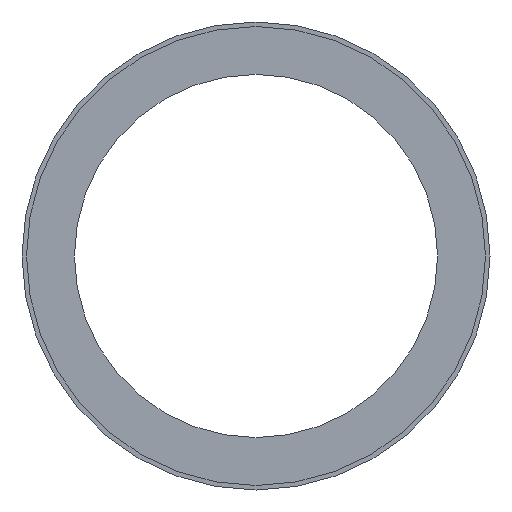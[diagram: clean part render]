
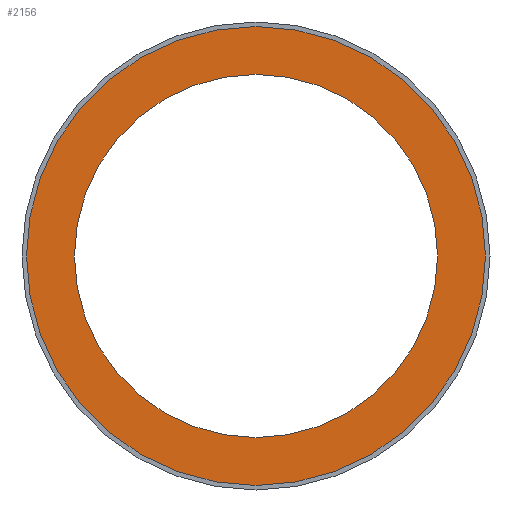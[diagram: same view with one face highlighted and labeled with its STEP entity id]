
A CAD part, front view. The second image highlights one B-rep face of the part: STEP entity #2156.
In plain terms, the highlighted planar face has unit normal (0, -1, 0).
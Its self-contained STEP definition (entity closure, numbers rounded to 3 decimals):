
#93 = DIRECTION ( 'NONE',  ( 0., 0., -1. ) ) ;
#118 = DIRECTION ( 'NONE',  ( 0., 1., 0. ) ) ;
#178 = EDGE_CURVE ( 'NONE', #4407, #6073, #308, .T. ) ;
#308 = CIRCLE ( 'NONE', #3269, 180. ) ;
#404 = CARTESIAN_POINT ( 'NONE',  ( 0., -58., -227.5 ) ) ;
#670 = VERTEX_POINT ( 'NONE', #404 ) ;
#743 = CARTESIAN_POINT ( 'NONE',  ( 0., -58., 0. ) ) ;
#788 = AXIS2_PLACEMENT_3D ( 'NONE', #3511, #1683, #5276 ) ;
#836 = EDGE_CURVE ( 'NONE', #670, #6692, #1711, .T. ) ;
#1210 = EDGE_CURVE ( 'NONE', #6073, #4407, #3225, .T. ) ;
#1261 = CARTESIAN_POINT ( 'NONE',  ( 0., -58., 180. ) ) ;
#1683 = DIRECTION ( 'NONE',  ( 0., -1., 0. ) ) ;
#1711 = CIRCLE ( 'NONE', #788, 227.5 ) ;
#1747 = CARTESIAN_POINT ( 'NONE',  ( 0., -58., 0. ) ) ;
#2156 = ADVANCED_FACE ( 'NONE', ( #6056, #7852 ), #6216, .F. ) ;
#2336 = AXIS2_PLACEMENT_3D ( 'NONE', #1747, #6594, #3641 ) ;
#2713 = ORIENTED_EDGE ( 'NONE', *, *, #178, .F. ) ;
#2973 = ORIENTED_EDGE ( 'NONE', *, *, #4438, .T. ) ;
#3174 = DIRECTION ( 'NONE',  ( 0., 0., -1. ) ) ;
#3225 = CIRCLE ( 'NONE', #7825, 180. ) ;
#3269 = AXIS2_PLACEMENT_3D ( 'NONE', #7356, #4348, #3174 ) ;
#3433 = ORIENTED_EDGE ( 'NONE', *, *, #1210, .F. ) ;
#3511 = CARTESIAN_POINT ( 'NONE',  ( 0., -58., 0. ) ) ;
#3641 = DIRECTION ( 'NONE',  ( 0., 0., -1. ) ) ;
#4348 = DIRECTION ( 'NONE',  ( 0., -1., 0. ) ) ;
#4407 = VERTEX_POINT ( 'NONE', #6666 ) ;
#4438 = EDGE_CURVE ( 'NONE', #6692, #670, #4582, .T. ) ;
#4581 = CARTESIAN_POINT ( 'NONE',  ( 0., -58., 227.5 ) ) ;
#4582 = CIRCLE ( 'NONE', #2336, 227.5 ) ;
#5276 = DIRECTION ( 'NONE',  ( 0., 0., -1. ) ) ;
#5474 = EDGE_LOOP ( 'NONE', ( #7127, #2973 ) ) ;
#5496 = AXIS2_PLACEMENT_3D ( 'NONE', #1261, #118, #6706 ) ;
#5820 = EDGE_LOOP ( 'NONE', ( #3433, #2713 ) ) ;
#6056 = FACE_BOUND ( 'NONE', #5820, .T. ) ;
#6073 = VERTEX_POINT ( 'NONE', #6322 ) ;
#6216 = PLANE ( 'NONE',  #5496 ) ;
#6322 = CARTESIAN_POINT ( 'NONE',  ( 0., -58., -180. ) ) ;
#6594 = DIRECTION ( 'NONE',  ( 0., -1., 0. ) ) ;
#6666 = CARTESIAN_POINT ( 'NONE',  ( 0., -58., 180. ) ) ;
#6692 = VERTEX_POINT ( 'NONE', #4581 ) ;
#6706 = DIRECTION ( 'NONE',  ( 0., 0., 1. ) ) ;
#6724 = DIRECTION ( 'NONE',  ( 0., -1., 0. ) ) ;
#7127 = ORIENTED_EDGE ( 'NONE', *, *, #836, .T. ) ;
#7356 = CARTESIAN_POINT ( 'NONE',  ( 0., -58., 0. ) ) ;
#7825 = AXIS2_PLACEMENT_3D ( 'NONE', #743, #6724, #93 ) ;
#7852 = FACE_OUTER_BOUND ( 'NONE', #5474, .T. ) ;
